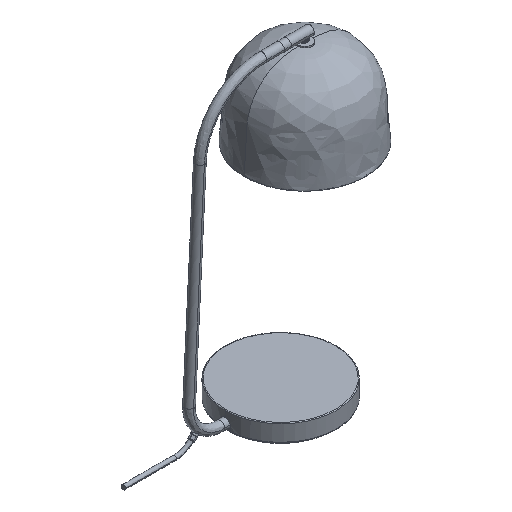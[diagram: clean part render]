
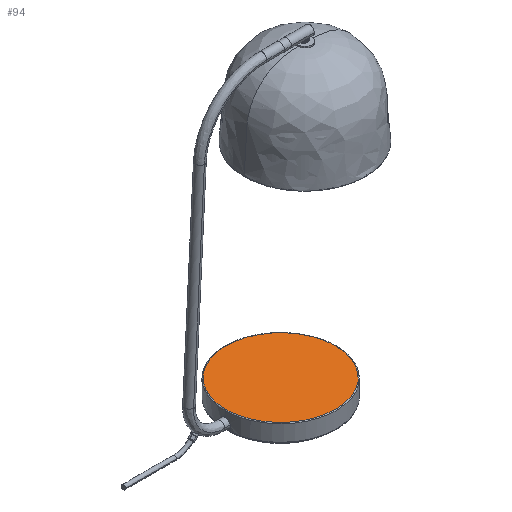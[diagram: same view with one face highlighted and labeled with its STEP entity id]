
A CAD part, isometric view. The second image highlights one B-rep face of the part: STEP entity #94.
In plain terms, the highlighted planar face has unit normal (0, 0, 1).
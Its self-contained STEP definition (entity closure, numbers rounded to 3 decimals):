
#94=ADVANCED_FACE('',(#345),#3314,.T.);
#345=FACE_OUTER_BOUND('',#596,.T.);
#596=EDGE_LOOP('',(#882,#883));
#882=ORIENTED_EDGE('',*,*,#1971,.F.);
#883=ORIENTED_EDGE('',*,*,#1938,.F.);
#1938=EDGE_CURVE('',#2994,#3016,#2627,.T.);
#1971=EDGE_CURVE('',#3016,#2994,#2649,.T.);
#2627=(
BOUNDED_CURVE()
B_SPLINE_CURVE(3,(#4250,#4251,#4252,#4253,#4254,#4255,#4256,#4257,#4258,
#4259,#4260,#4261,#4262,#4263,#4264,#4265,#4266,#4267,#4268,#4269,#4270,
#4271,#4272,#4273,#4274,#4275,#4276,#4277,#4278),.UNSPECIFIED.,.F.,.F.)
B_SPLINE_CURVE_WITH_KNOTS((4,1,1,1,1,1,1,1,1,1,1,1,3,1,1,1,1,1,1,1,1,1,
1,1,4),(0.,9.722,19.992,30.639,39.825,
50.88,62.046,73.212,84.268,93.454,
104.101,114.371,124.093,133.815,144.085,
154.732,163.918,174.973,186.139,197.305,
208.361,217.547,228.194,238.464,248.186),
 .UNSPECIFIED.)
CURVE()
GEOMETRIC_REPRESENTATION_ITEM()
RATIONAL_B_SPLINE_CURVE((1.,1.,1.,1.,1.,1.,
1.,1.,1.,1.,1.,1.,1.,1.,1.,1.,
1.,1.,1.,1.,1.,1.,
1.,1.,1.,1.,1.,1.,1.))
REPRESENTATION_ITEM('')
);
#2649=(
BOUNDED_CURVE()
B_SPLINE_CURVE(3,(#4570,#4571,#4572,#4573,#4574,#4575,#4576,#4577,#4578,
#4579,#4580,#4581,#4582,#4583,#4584,#4585,#4586,#4587,#4588,#4589,#4590,
#4591,#4592,#4593,#4594,#4595,#4596,#4597,#4598),.UNSPECIFIED.,.F.,.F.)
B_SPLINE_CURVE_WITH_KNOTS((4,1,1,1,1,1,1,1,1,1,1,1,3,1,1,1,1,1,1,1,1,1,
1,1,4),(248.186,257.908,268.178,278.824,
288.011,299.066,310.232,321.398,332.454,
341.64,352.287,362.557,372.279,382.001,
392.271,402.917,412.104,423.159,434.325,
445.491,456.547,465.733,476.38,486.649,
496.372),.UNSPECIFIED.)
CURVE()
GEOMETRIC_REPRESENTATION_ITEM()
RATIONAL_B_SPLINE_CURVE((1.,1.,1.,1.,1.,1.,
1.,1.,1.,1.,1.,1.,1.,1.,1.,
1.,1.,1.,1.,1.,1.,1.,
1.,1.,1.,1.,1.,1.,1.))
REPRESENTATION_ITEM('')
);
#2994=VERTEX_POINT('',#4206);
#3016=VERTEX_POINT('',#4228);
#3314=PLANE('',#3579);
#3579=AXIS2_PLACEMENT_3D('',#4198,#3671,$);
#3671=DIRECTION('',(0.,0.,1.));
#4198=CARTESIAN_POINT('',(653.875,148.525,-178.461));
#4206=CARTESIAN_POINT('',(832.875,48.525,-178.461));
#4228=CARTESIAN_POINT('',(674.875,48.525,-178.461));
#4250=CARTESIAN_POINT('',(832.875,48.525,-178.461));
#4251=CARTESIAN_POINT('',(832.875,45.284,-178.461));
#4252=CARTESIAN_POINT('',(832.464,38.62,-178.461));
#4253=CARTESIAN_POINT('',(830.551,28.566,-178.461));
#4254=CARTESIAN_POINT('',(827.383,19.021,-178.461));
#4255=CARTESIAN_POINT('',(822.934,9.716,-178.461));
#4256=CARTESIAN_POINT('',(817.235,0.904,-178.461));
#4257=CARTESIAN_POINT('',(809.923,-7.523,-178.461));
#4258=CARTESIAN_POINT('',(801.496,-14.835,-178.461));
#4259=CARTESIAN_POINT('',(792.684,-20.534,-178.461));
#4260=CARTESIAN_POINT('',(783.379,-24.983,-178.461));
#4261=CARTESIAN_POINT('',(773.834,-28.151,-178.461));
#4262=CARTESIAN_POINT('',(763.78,-30.064,-178.461));
#4263=CARTESIAN_POINT('',(757.116,-30.475,-178.461));
#4264=CARTESIAN_POINT('',(753.875,-30.475,-178.461));
#4265=CARTESIAN_POINT('',(750.634,-30.475,-178.461));
#4266=CARTESIAN_POINT('',(743.97,-30.064,-178.461));
#4267=CARTESIAN_POINT('',(733.916,-28.151,-178.461));
#4268=CARTESIAN_POINT('',(724.371,-24.983,-178.461));
#4269=CARTESIAN_POINT('',(715.066,-20.534,-178.461));
#4270=CARTESIAN_POINT('',(706.254,-14.835,-178.461));
#4271=CARTESIAN_POINT('',(697.827,-7.523,-178.461));
#4272=CARTESIAN_POINT('',(690.515,0.904,-178.461));
#4273=CARTESIAN_POINT('',(684.815,9.716,-178.461));
#4274=CARTESIAN_POINT('',(680.367,19.021,-178.461));
#4275=CARTESIAN_POINT('',(677.199,28.566,-178.461));
#4276=CARTESIAN_POINT('',(675.286,38.62,-178.461));
#4277=CARTESIAN_POINT('',(674.875,45.284,-178.461));
#4278=CARTESIAN_POINT('',(674.875,48.525,-178.461));
#4570=CARTESIAN_POINT('',(674.875,48.525,-178.461));
#4571=CARTESIAN_POINT('',(674.875,51.766,-178.461));
#4572=CARTESIAN_POINT('',(675.285,58.43,-178.461));
#4573=CARTESIAN_POINT('',(677.199,68.484,-178.461));
#4574=CARTESIAN_POINT('',(680.367,78.029,-178.461));
#4575=CARTESIAN_POINT('',(684.815,87.334,-178.461));
#4576=CARTESIAN_POINT('',(690.515,96.146,-178.461));
#4577=CARTESIAN_POINT('',(697.827,104.573,-178.461));
#4578=CARTESIAN_POINT('',(706.254,111.885,-178.461));
#4579=CARTESIAN_POINT('',(715.066,117.585,-178.461));
#4580=CARTESIAN_POINT('',(724.371,122.033,-178.461));
#4581=CARTESIAN_POINT('',(733.916,125.201,-178.461));
#4582=CARTESIAN_POINT('',(743.97,127.115,-178.461));
#4583=CARTESIAN_POINT('',(750.634,127.525,-178.461));
#4584=CARTESIAN_POINT('',(753.875,127.525,-178.461));
#4585=CARTESIAN_POINT('',(757.116,127.525,-178.461));
#4586=CARTESIAN_POINT('',(763.78,127.115,-178.461));
#4587=CARTESIAN_POINT('',(773.834,125.201,-178.461));
#4588=CARTESIAN_POINT('',(783.379,122.033,-178.461));
#4589=CARTESIAN_POINT('',(792.684,117.585,-178.461));
#4590=CARTESIAN_POINT('',(801.496,111.885,-178.461));
#4591=CARTESIAN_POINT('',(809.923,104.573,-178.461));
#4592=CARTESIAN_POINT('',(817.235,96.146,-178.461));
#4593=CARTESIAN_POINT('',(822.934,87.334,-178.461));
#4594=CARTESIAN_POINT('',(827.383,78.029,-178.461));
#4595=CARTESIAN_POINT('',(830.551,68.484,-178.461));
#4596=CARTESIAN_POINT('',(832.464,58.43,-178.461));
#4597=CARTESIAN_POINT('',(832.875,51.766,-178.461));
#4598=CARTESIAN_POINT('',(832.875,48.525,-178.461));
